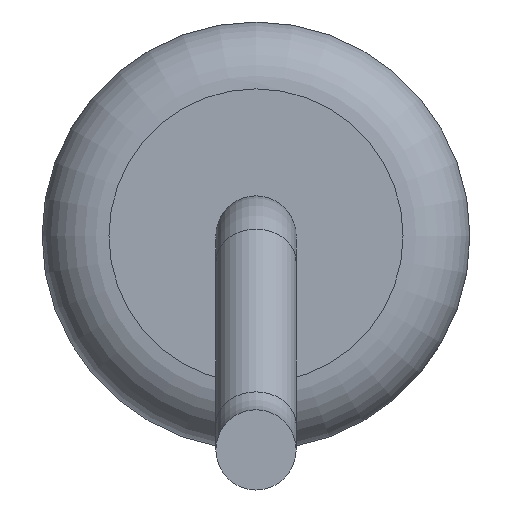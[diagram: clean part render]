
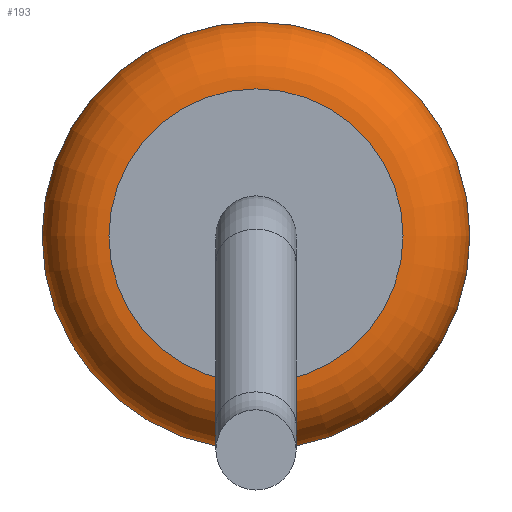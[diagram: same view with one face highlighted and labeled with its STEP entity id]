
A CAD part, left-side view. The second image highlights one B-rep face of the part: STEP entity #193.
In plain terms, the highlighted toroidal (fillet/blend) face has major radius 1.1 mm and minor radius 0.5 mm.
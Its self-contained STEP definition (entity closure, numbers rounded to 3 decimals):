
#193=ADVANCED_FACE('',(#398,#400),#402,.T.);
#398=FACE_OUTER_BOUND('',#399,.T.);
#399=EDGE_LOOP('',(#497));
#400=FACE_OUTER_BOUND('',#401,.T.);
#401=EDGE_LOOP('',(#498));
#402=TOROIDAL_SURFACE('',#403,1.1,0.5);
#403=AXIS2_PLACEMENT_3D('',#404,#405,#406);
#404=CARTESIAN_POINT('',(-4.,0.,0.));
#405=DIRECTION('',(-1.,0.,0.));
#406=DIRECTION('',(0.,0.,1.));
#497=ORIENTED_EDGE('',*,*,#526,.T.);
#498=ORIENTED_EDGE('',*,*,#527,.F.);
#526=EDGE_CURVE('',#562,#562,#563,.T.);
#527=EDGE_CURVE('',#564,#564,#565,.T.);
#562=VERTEX_POINT('',#648);
#563=CIRCLE('',#649,1.6);
#564=VERTEX_POINT('',#653);
#565=CIRCLE('',#654,1.1);
#648=CARTESIAN_POINT('',(-4.,0.,1.6));
#649=AXIS2_PLACEMENT_3D('',#650,#651,#652);
#650=CARTESIAN_POINT('',(-4.,0.,0.));
#651=DIRECTION('',(-1.,0.,0.));
#652=DIRECTION('',(0.,0.,1.));
#653=CARTESIAN_POINT('',(-4.5,0.,1.1));
#654=AXIS2_PLACEMENT_3D('',#655,#656,#657);
#655=CARTESIAN_POINT('',(-4.5,0.,0.));
#656=DIRECTION('',(-1.,0.,0.));
#657=DIRECTION('',(0.,0.,1.));
